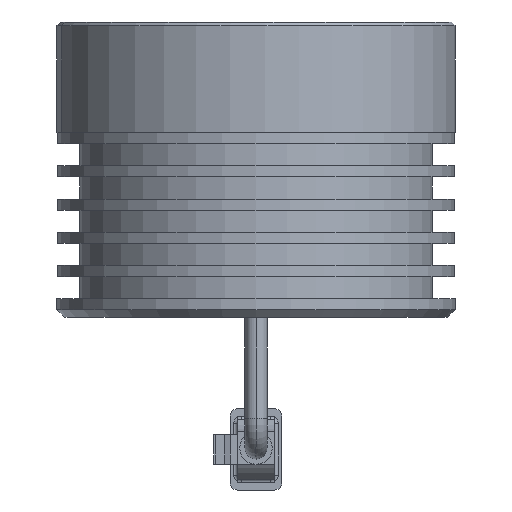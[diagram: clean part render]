
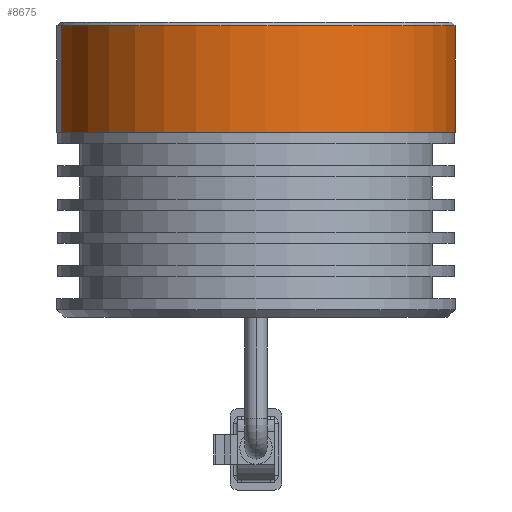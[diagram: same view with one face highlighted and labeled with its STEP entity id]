
A CAD part, front view. The second image highlights one B-rep face of the part: STEP entity #8675.
In plain terms, the highlighted cylindrical face has radius 27 mm (diameter 54 mm), a partial arc.
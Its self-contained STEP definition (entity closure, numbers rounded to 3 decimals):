
#95 = ORIENTED_EDGE ( 'NONE', *, *, #3306, .T. ) ;
#274 = ORIENTED_EDGE ( 'NONE', *, *, #3077, .F. ) ;
#313 = LINE ( 'NONE', #5168, #8840 ) ;
#739 = DIRECTION ( 'NONE',  ( 1., 0., 0. ) ) ;
#994 = DIRECTION ( 'NONE',  ( 0., 0., 1. ) ) ;
#1127 = DIRECTION ( 'NONE',  ( 0., 0., -1. ) ) ;
#1867 = CARTESIAN_POINT ( 'NONE',  ( 27., 0., 14.5 ) ) ;
#2533 = VERTEX_POINT ( 'NONE', #8430 ) ;
#2979 = VERTEX_POINT ( 'NONE', #1867 ) ;
#3077 = EDGE_CURVE ( 'NONE', #2979, #3287, #7624, .T. ) ;
#3179 = CYLINDRICAL_SURFACE ( 'NONE', #7933, 27. ) ;
#3193 = ORIENTED_EDGE ( 'NONE', *, *, #8501, .T. ) ;
#3287 = VERTEX_POINT ( 'NONE', #4320 ) ;
#3306 = EDGE_CURVE ( 'NONE', #2979, #2533, #4665, .T. ) ;
#3404 = DIRECTION ( 'NONE',  ( 0., 0., -1. ) ) ;
#3405 = AXIS2_PLACEMENT_3D ( 'NONE', #7765, #994, #739 ) ;
#4320 = CARTESIAN_POINT ( 'NONE',  ( 27., 0., 0. ) ) ;
#4540 = FACE_OUTER_BOUND ( 'NONE', #4641, .T. ) ;
#4641 = EDGE_LOOP ( 'NONE', ( #274, #95, #6895, #3193 ) ) ;
#4665 = CIRCLE ( 'NONE', #6251, 27. ) ;
#4806 = CARTESIAN_POINT ( 'NONE',  ( 0., 0., 15. ) ) ;
#4815 = DIRECTION ( 'NONE',  ( 0., 0., -1. ) ) ;
#5011 = CARTESIAN_POINT ( 'NONE',  ( -27., 0., 0. ) ) ;
#5146 = EDGE_CURVE ( 'NONE', #2533, #7639, #313, .T. ) ;
#5168 = CARTESIAN_POINT ( 'NONE',  ( -27., 0., 15. ) ) ;
#5266 = CARTESIAN_POINT ( 'NONE',  ( 0., 0., 14.5 ) ) ;
#6251 = AXIS2_PLACEMENT_3D ( 'NONE', #5266, #1127, #7445 ) ;
#6808 = VECTOR ( 'NONE', #4815, 1000. ) ;
#6895 = ORIENTED_EDGE ( 'NONE', *, *, #5146, .T. ) ;
#7272 = CIRCLE ( 'NONE', #3405, 27. ) ;
#7398 = DIRECTION ( 'NONE',  ( -1., 0., 0. ) ) ;
#7445 = DIRECTION ( 'NONE',  ( 1., 0., 0. ) ) ;
#7624 = LINE ( 'NONE', #7719, #6808 ) ;
#7639 = VERTEX_POINT ( 'NONE', #5011 ) ;
#7719 = CARTESIAN_POINT ( 'NONE',  ( 27., 0., 15. ) ) ;
#7765 = CARTESIAN_POINT ( 'NONE',  ( 0., 0., 0. ) ) ;
#7933 = AXIS2_PLACEMENT_3D ( 'NONE', #4806, #3404, #7398 ) ;
#8384 = DIRECTION ( 'NONE',  ( 0., 0., -1. ) ) ;
#8430 = CARTESIAN_POINT ( 'NONE',  ( -27., 0., 14.5 ) ) ;
#8501 = EDGE_CURVE ( 'NONE', #7639, #3287, #7272, .T. ) ;
#8675 = ADVANCED_FACE ( 'NONE', ( #4540 ), #3179, .T. ) ;
#8840 = VECTOR ( 'NONE', #8384, 1000. ) ;
